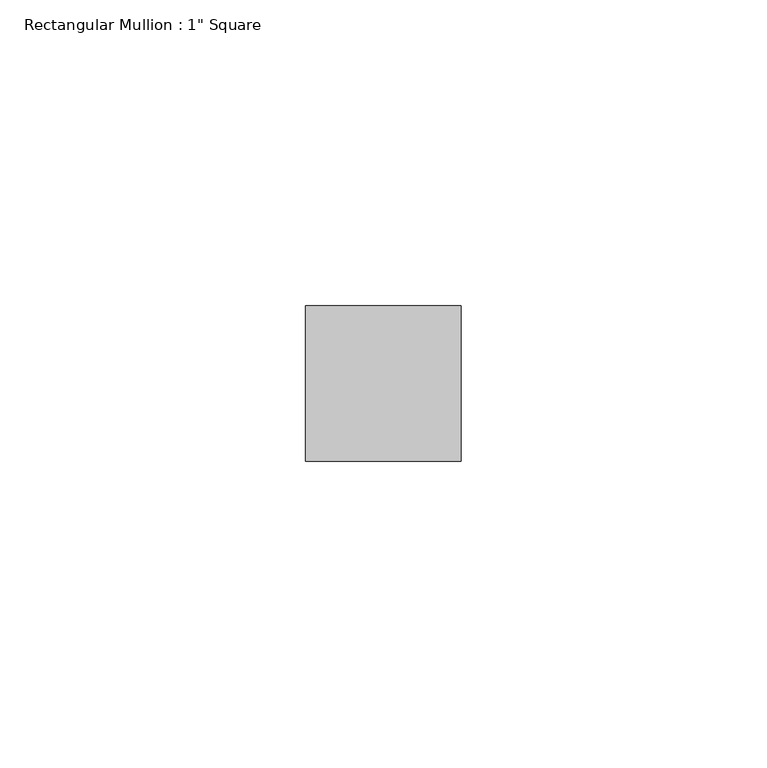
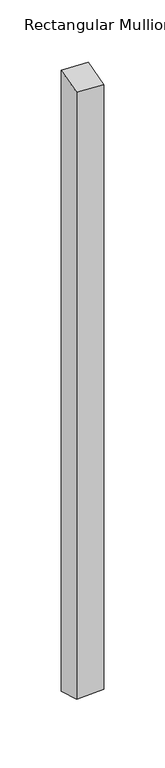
"""IFC4 building model written with IfcOpenShell, lengths in millimetres: member geometry."""

from ifc_helpers import new_model, si_unit, origin, place, context, project, spatial, faceted_brep, source, transform, mapped, element, save


def member_e2c9c6a0(model_context):
    return source(origin(), model_context, "Body", "Brep", [
        faceted_brep([(-25.4, 12.7, 4.5309013), (0.0, 12.7, 3.282462), (0.0, 12.7, -613.2431501), (-25.4, 12.7, -614.6287721), (-25.4, -12.7, -2.0340227), (-25.4, -12.7, -607.342472), (0.0, -12.7, -3.282462), (0.0, -12.7, -605.9568499)], [[[0, 1, 2, 3]], [[4, 0, 3, 5]], [[6, 4, 5, 7]], [[1, 6, 7, 2]], [[1, 0, 4, 6]], [[2, 7, 5, 3]]]),
    ])


if __name__ == "__main__":
    model = new_model("IFC4")
    model_context = context("Model", 3, world=origin())
    ifc_project = project(units=[si_unit("LENGTHUNIT", "METRE", prefix="MILLI")], contexts=[model_context])
    site = spatial("IfcSite", under=ifc_project)
    building = spatial("IfcBuilding", under=site)
    placement = place(None, origin())
    member_shape = member_e2c9c6a0(model_context)
    element("IfcMember", 1, ObjectType="Rectangular Mullion : 1\" Square", at=placement, inside=building, context=model_context, shape_type="MappedRepresentation", body=[
        mapped(member_shape, transform((0.0, 0.0, 0.0), x_axis=(1.0, 0.0, 0.0), y_axis=(0.0, 1.0, 0.0), z_axis=(0.0, 0.0, 1.0))),
    ])
    save(model, "model.ifc")
